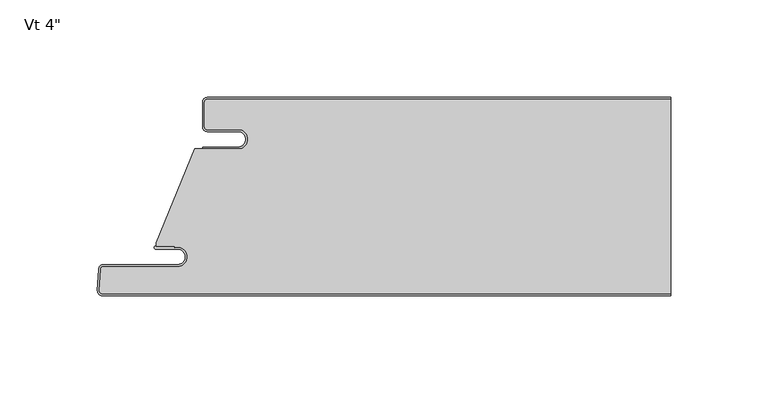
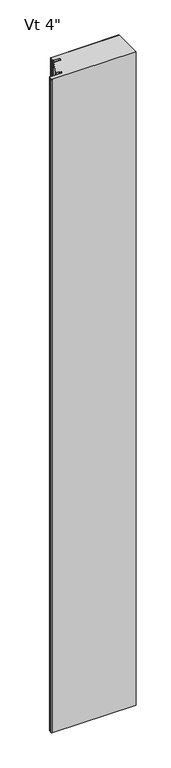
"""IFC4 building model written with IfcOpenShell, lengths in millimetres: plate geometry."""

from ifc_helpers import new_model, si_unit, point, frame_2d, origin, origin_with_axes, place, context, project, spatial, polyline, circle_curve, trimmed, segment, composite_curve, outline, extrude, source, transform, mapped, element, save


def plate_925c1c1f(model_context):
    return source(origin(), model_context, "Body", "SweptSolid", [
        extrude(outline(composite_curve([segment(polyline([(-101.3499998, -16.4625), (-117.2249998, -16.4625)]), True, "CONTINUOUS"), segment(trimmed(circle_curve(frame_2d((-117.2249998, -15.08125)), 1.38125), [point((-117.2249998, -16.4625))], [point((-118.6062498, -15.08125))], False, "CARTESIAN"), True, "CONTINUOUS"), segment(polyline([(-118.6062498, -15.08125), (-118.6062498, -2.38125)]), True, "CONTINUOUS"), segment(trimmed(circle_curve(frame_2d((-117.2249998, -2.38125)), 1.38125), [point((-118.6062498, -2.38125))], [point((-117.2249998, -1.0))], False, "CARTESIAN"), True, "CONTINUOUS"), segment(polyline([(-117.2249998, -1.0), (120.3999998, -1.0), (120.3999998, -100.6), (-171.0862034, -100.6)]), True, "CONTINUOUS"), segment(trimmed(circle_curve(frame_2d((-171.0862034, -99.21875)), 1.38125), [point((-171.0862034, -100.6))], [point((-172.4655604, -99.146461))], False, "CARTESIAN"), True, "CONTINUOUS"), segment(polyline([(-172.4655604, -99.146461), (-171.883179, -88.033961)]), True, "CONTINUOUS"), segment(trimmed(circle_curve(frame_2d((-170.5038219, -88.10625)), 1.38125), [point((-171.883179, -88.033961))], [point((-170.5038219, -86.725))], False, "CARTESIAN"), True, "CONTINUOUS"), segment(polyline([(-170.5038219, -86.725), (-132.3205173, -86.725)]), True, "CONTINUOUS"), segment(trimmed(circle_curve(frame_2d((-132.3205173, -81.75625)), 4.96875), [point((-132.3205173, -86.725))], [point((-132.3205173, -76.7875))], True, "CARTESIAN"), True, "CONTINUOUS"), segment(polyline([(-132.3205173, -76.7875), (-133.9080173, -76.99375), (-133.9080173, -76.2), (-143.4187498, -76.2), (-143.4187498, -74.6157227), (-123.5323421, -26.4), (-101.3499998, -26.4)]), True, "CONTINUOUS"), segment(trimmed(circle_curve(frame_2d((-101.3499998, -21.43125)), 4.96875), [point((-101.3499998, -26.4))], [point((-101.3499998, -16.4625))], True, "CARTESIAN"), True, "CONTINUOUS")], self_intersect=False)), origin_with_axes(), (0.0, 0.0, 1.0), 2400.0),
        extrude(outline(composite_curve([segment(polyline([(-119.6062498, -25.4), (-101.3499998, -25.4)]), True, "CONTINUOUS"), segment(trimmed(circle_curve(frame_2d((-101.3499998, -21.43125)), 3.96875), [point((-101.3499998, -25.4))], [point((-101.3499998, -17.4625))], True, "CARTESIAN"), True, "CONTINUOUS"), segment(polyline([(-101.3499998, -17.4625), (-117.2249998, -17.4625)]), True, "CONTINUOUS"), segment(trimmed(circle_curve(frame_2d((-117.2249998, -15.08125)), 2.38125), [point((-117.2249998, -17.4625))], [point((-119.6062498, -15.08125))], False, "CARTESIAN"), True, "CONTINUOUS"), segment(polyline([(-119.6062498, -15.08125), (-119.6062498, -2.38125)]), True, "CONTINUOUS"), segment(trimmed(circle_curve(frame_2d((-117.2249998, -2.38125)), 2.38125), [point((-119.6062498, -2.38125))], [point((-117.2249998, 0.0))], False, "CARTESIAN"), True, "CONTINUOUS"), segment(polyline([(-117.2249998, 0.0), (120.3999998, 0.0), (120.3999998, -1.0), (-117.2249998, -1.0)]), True, "CONTINUOUS"), segment(trimmed(circle_curve(frame_2d((-117.2249998, -2.38125)), 1.38125), [point((-117.2249998, -1.0))], [point((-118.6062498, -2.38125))], True, "CARTESIAN"), True, "CONTINUOUS"), segment(polyline([(-118.6062498, -2.38125), (-118.6062498, -15.08125)]), True, "CONTINUOUS"), segment(trimmed(circle_curve(frame_2d((-117.2249998, -15.08125)), 1.38125), [point((-118.6062498, -15.08125))], [point((-117.2249998, -16.4625))], True, "CARTESIAN"), True, "CONTINUOUS"), segment(polyline([(-117.2249998, -16.4625), (-101.3499998, -16.4625)]), True, "CONTINUOUS"), segment(trimmed(circle_curve(frame_2d((-101.3499998, -21.43125)), 4.96875), [point((-101.3499998, -16.4625))], [point((-101.3499998, -26.4))], False, "CARTESIAN"), True, "CONTINUOUS"), segment(polyline([(-101.3499998, -26.4), (-119.6062498, -26.4), (-119.6062498, -25.4)]), True, "CONTINUOUS")], self_intersect=False)), origin_with_axes(), (0.0, 0.0, 1.0), 2400.0),
        extrude(outline(composite_curve([segment(polyline([(-143.6314548, -76.2), (-133.9080173, -76.2), (-133.9080173, -76.99375), (-132.3205173, -76.7875)]), True, "CONTINUOUS"), segment(trimmed(circle_curve(frame_2d((-132.3205173, -81.75625)), 4.96875), [point((-132.3205173, -76.7875))], [point((-132.3205173, -86.725))], False, "CARTESIAN"), True, "CONTINUOUS"), segment(polyline([(-132.3205173, -86.725), (-170.5038219, -86.725)]), True, "CONTINUOUS"), segment(trimmed(circle_curve(frame_2d((-170.5038219, -88.10625)), 1.38125), [point((-170.5038219, -86.725))], [point((-171.883179, -88.033961))], True, "CARTESIAN"), True, "CONTINUOUS"), segment(polyline([(-171.883179, -88.033961), (-172.4655604, -99.146461)]), True, "CONTINUOUS"), segment(trimmed(circle_curve(frame_2d((-171.0862034, -99.21875)), 1.38125), [point((-172.4655604, -99.146461))], [point((-171.0862034, -100.6))], True, "CARTESIAN"), True, "CONTINUOUS"), segment(polyline([(-171.0862034, -100.6), (120.3999998, -100.6), (120.3999998, -101.6), (-171.0862034, -101.6)]), True, "CONTINUOUS"), segment(trimmed(circle_curve(frame_2d((-171.0862034, -99.21875)), 2.38125), [point((-171.0862034, -101.6))], [point((-173.4641899, -99.094125))], False, "CARTESIAN"), True, "CONTINUOUS"), segment(polyline([(-173.4641899, -99.094125), (-172.8818085, -87.981625)]), True, "CONTINUOUS"), segment(trimmed(circle_curve(frame_2d((-170.5038219, -88.10625)), 2.38125), [point((-172.8818085, -87.981625))], [point((-170.5038219, -85.725))], False, "CARTESIAN"), True, "CONTINUOUS"), segment(polyline([(-170.5038219, -85.725), (-132.3205173, -85.725)]), True, "CONTINUOUS"), segment(trimmed(circle_curve(frame_2d((-132.3205173, -81.75625)), 3.96875), [point((-132.3205173, -85.725))], [point((-132.3205173, -77.7875))], True, "CARTESIAN"), True, "CONTINUOUS"), segment(polyline([(-132.3205173, -77.7875), (-143.6314548, -77.7875)]), True, "CONTINUOUS"), segment(trimmed(circle_curve(frame_2d((-143.6314548, -76.99375)), 0.79375), [point((-143.6314548, -77.7875))], [point((-143.6314548, -76.2))], False, "CARTESIAN"), True, "CONTINUOUS")], self_intersect=False)), origin_with_axes(), (0.0, 0.0, 1.0), 2400.0),
    ])


if __name__ == "__main__":
    model = new_model("IFC4")
    model_context = context("Model", 3, world=origin())
    ifc_project = project(units=[si_unit("LENGTHUNIT", "METRE", prefix="MILLI")], contexts=[model_context])
    site = spatial("IfcSite", under=ifc_project)
    building = spatial("IfcBuilding", under=site)
    placement = place(None, origin())
    plate_shape = plate_925c1c1f(model_context)
    element("IfcPlate", 1, ObjectType="KIP-24-DWHR-R19-CP-Vt-F : Vt 4\"", at=placement, inside=building, context=model_context, shape_type="MappedRepresentation", body=[
        mapped(plate_shape, transform((0.0, 0.0, 0.0), x_axis=(1.0, 0.0, 0.0), y_axis=(0.0, 1.0, 0.0), z_axis=(0.0, 0.0, 1.0))),
    ])
    save(model, "model.ifc")
